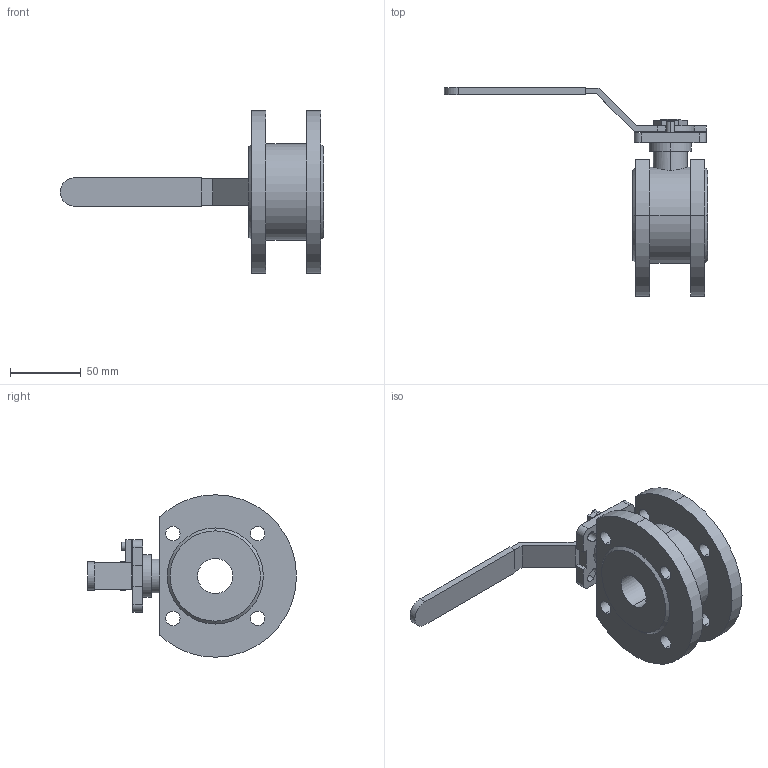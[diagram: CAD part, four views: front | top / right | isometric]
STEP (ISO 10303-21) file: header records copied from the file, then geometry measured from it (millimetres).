
FILE_DESCRIPTION (( 'STEP AP203' ), '1' );
FILE_NAME ('01.622I025X16CP.STEP', '2018-10-23T07:12:47', ( '' ), ( '' ), 'SwSTEP 2.0', 'SolidWorks 2014', '' );
FILE_SCHEMA (( 'CONFIG_CONTROL_DESIGN' ));
Length unit declared in the file: millimetre
Products named in the file (1): 01.622I025X16CP
Bounding box: 186.5 x 148 x 115 mm (x, y, z)
Volume: 318128.3 mm3; surface area: 65560.1 mm2
Topology: 1 solids, 1 shells, 123 faces, 325 edges, 216 vertices
Faces by surface type: plane 69, cylinder 50, cone 4
Entity records: 4052 total; most frequent: CARTESIAN_POINT 763, DIRECTION 677, ORIENTED_EDGE 650, EDGE_CURVE 325, AXIS2_PLACEMENT_3D 230, LINE 217, VECTOR 217, VERTEX_POINT 216
